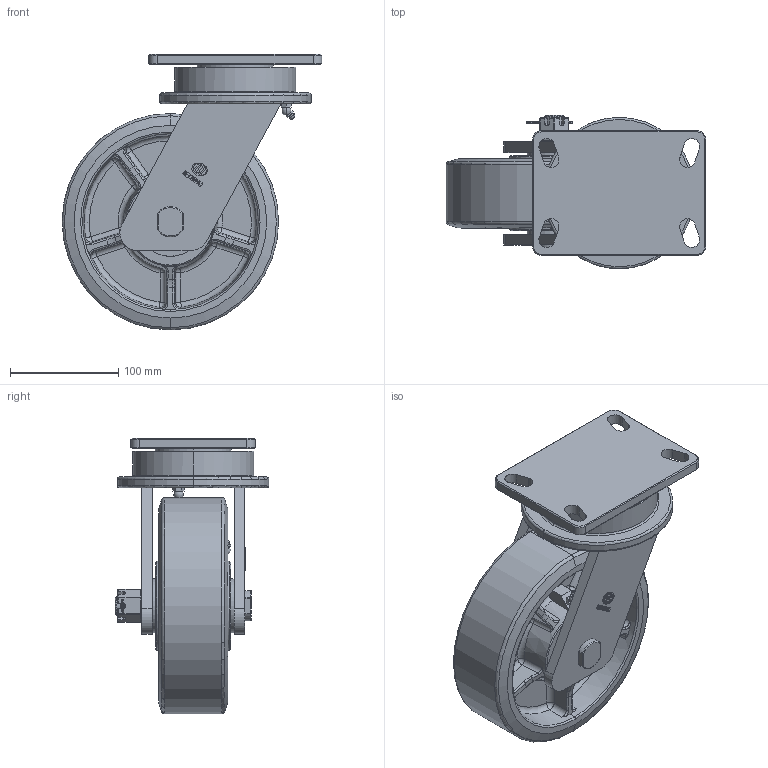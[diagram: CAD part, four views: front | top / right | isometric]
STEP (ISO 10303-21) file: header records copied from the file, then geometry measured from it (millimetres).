
FILE_DESCRIPTION(/* description */ (''),/* implementation_level */ '2;1');
FILE_NAME(/* name */ '40A03_8_F.stp',/* time_stamp */ '2022-08-29T09:29:51+08:00',/* author */ (''),/* organization */ (''),/* preprocessor_version */ 'ST-DEVELOPER v14',/* originating_system */ 'SIEMENS PLM Software NX 8.0',/* authorisation */ '');
FILE_SCHEMA (('AUTOMOTIVE_DESIGN { 1 0 10303 214 3 1 1 1 }'));
Length unit declared in the file: millimetre
Products named in the file (1): 40A03_8_F
Bounding box: 240 x 142.25 x 255 mm (x, y, z)
Volume: 2092106.5 mm3; surface area: 277799.7 mm2
Topology: 1 solids, 4 shells, 794 faces, 2055 edges, 1256 vertices
Faces by surface type: plane 350, cylinder 238, bspline 58, sphere 54, torus 52, cone 38, revolution 4
Entity records: 27139 total; most frequent: CARTESIAN_POINT 9101, ORIENTED_EDGE 3994, DIRECTION 3447, EDGE_CURVE 1997, AXIS2_PLACEMENT_3D 1339, VERTEX_POINT 1256, EDGE_LOOP 855, ADVANCED_FACE 794
